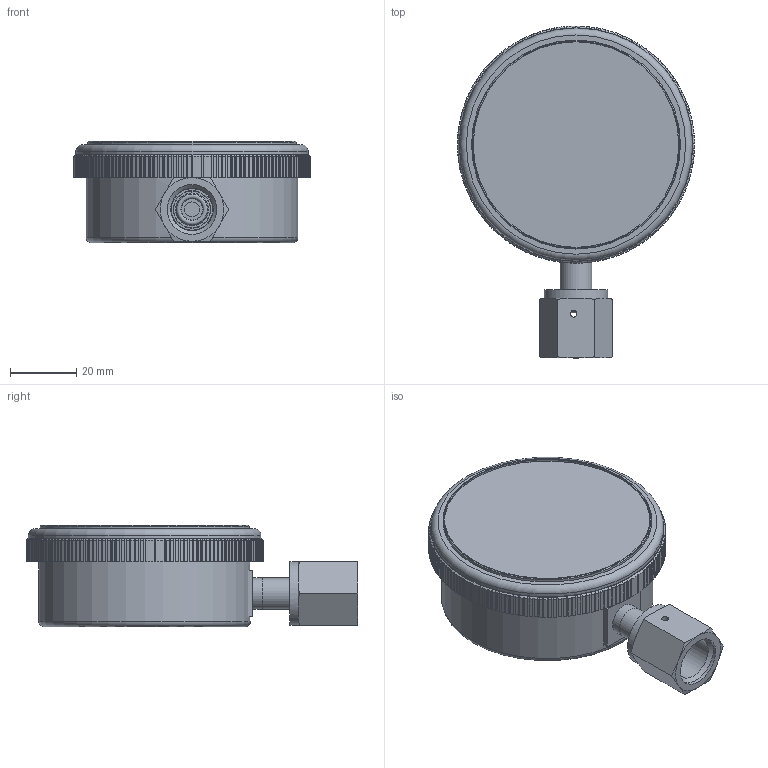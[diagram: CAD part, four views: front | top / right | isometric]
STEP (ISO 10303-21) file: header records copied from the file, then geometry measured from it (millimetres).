
FILE_DESCRIPTION(/* description */ (''),/* implementation_level */ '2;1');
FILE_NAME(/* name */ 'P800_63PI_LOW MOUNT_SWIVEL(F).stp',/* time_stamp */ '2025-03-31T08:28:11+09:00',/* author */ ('wise-209'),/* organization */ (''),/* preprocessor_version */ 'ST-DEVELOPER v19.2',/* originating_system */ 'Autodesk Inventor 2024',/* authorisation */ '');
FILE_SCHEMA (('AUTOMOTIVE_DESIGN { 1 0 10303 214 3 1 1 }'));
Length unit declared in the file: millimetre
Products named in the file (4): P8X0_63mm_A Type_SM_ASSY; COVER; SHANK; 14NUT
Assembly tree (3 placements, depth 2):
  P8X0_63mm_A Type_SM_ASSY
    COVER
    SHANK
    14NUT
Bounding box: 71.5 x 100.05 x 30.5 mm (x, y, z)
Volume: 108408.3 mm3; surface area: 18090.7 mm2
Topology: 3 solids, 3 shells, 646 faces, 1877 edges, 1245 vertices
Faces by surface type: plane 463, cylinder 158, cone 22, torus 3
Full cylindrical faces by diameter (mm): 2 x2, 4.5 x1, 9.53 x2, 9.9 x1, 11.3 x1, 12.7 x1, 12.8 x1, 15 x1, 19.2 x1, 63 x1, 63.8 x1, 70.1 x1
Entity records: 21236 total; most frequent: CARTESIAN_POINT 4187, ORIENTED_EDGE 3754, DIRECTION 3361, EDGE_CURVE 1877, LINE 1349, VECTOR 1349, VERTEX_POINT 1245, AXIS2_PLACEMENT_3D 1006
